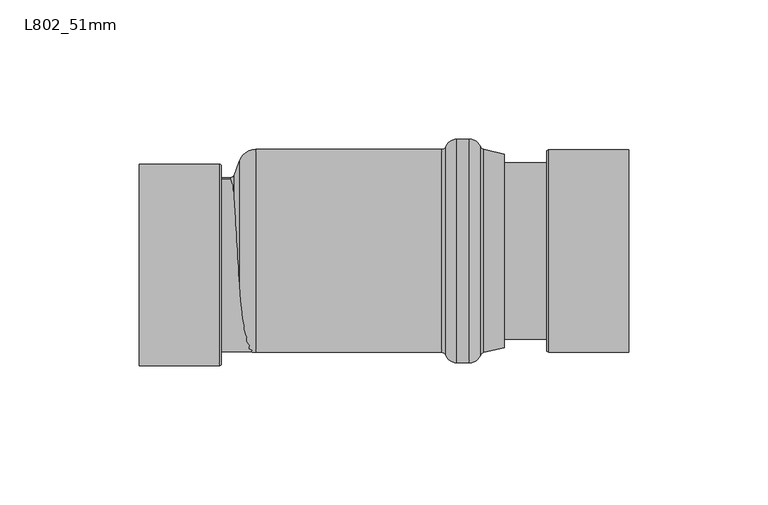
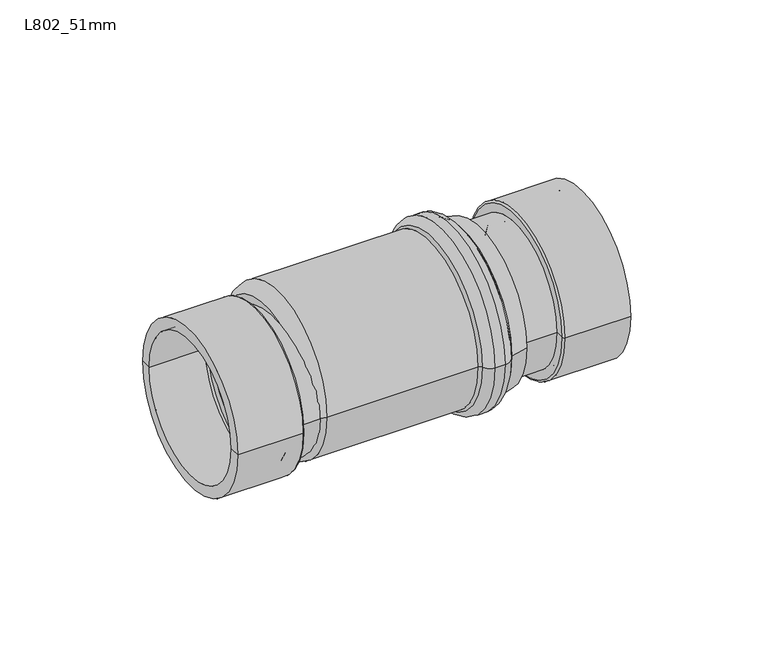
"""IFC4 building model written with IfcOpenShell, lengths in millimetres: pipe fitting geometry, Durapipe_PipeFitting_VulcatheneEnfusion_ThermalStressReliefUnit_L80 : L802_51mm."""

from ifc_helpers import new_model, si_unit, point, frame, origin, place, context, project, spatial, polyline, circle_curve, ellipse_curve, trimmed, source, transform, mapped, element, save
from ifc_brep_helpers import plane_surface, cylinder_surface, revolved_surface, advanced_brep


def l802_51mm_1347b56c(model_context):
    return source(origin(), model_context, "Body", "AdvancedBrep", [
        advanced_brep(
        [(-58.43, -26.2894623, 0.0), (-58.43, 26.2894623, 0.0), (-55.2611716, 26.2894623, 0.0), (-55.2611716, -26.2894623, 0.0), (-58.43, -21.6019623, 0.0), (-58.43, 21.6019623, 0.0), (-50.7877455, -21.6019623, 0.0), (-50.7877455, 21.6019623, 0.0), (-47.5124292, -30.60082, 0.0), (-47.5124292, 30.60082, 0.0), (-46.0223167, -31.7774623, 0.0), (-46.0223167, 31.7774623, 0.0), (-46.0223167, -36.4774623, 0.0), (-46.0223167, 36.4774623, 0.0), (-53.838544, -27.2855969, 0.0), (-53.838544, 27.2855969, 0.0), (-52.0527773, 32.1919505, 0.0), (-52.0527773, -32.1919505, 0.0)],
        [
            (0, 1, circle_curve(frame((-58.43, 0.0, 0.0), z_axis=(1.0, 0.0, 0.0), x_axis=(0.0, 1.0, 0.0)), 26.2894623)),
            (1, 2),
            (2, 3, circle_curve(frame((-55.2611716, 0.0, 0.0), z_axis=(-1.0, 0.0, 0.0), x_axis=(0.0, 1.0, 0.0)), 26.2894623)),
            (3, 0),
            (1, 0, circle_curve(frame((-58.43, 0.0, 0.0), z_axis=(1.0, 0.0, 0.0), x_axis=(0.0, 1.0, 0.0)), 26.2894623)),
            (3, 2, circle_curve(frame((-55.2611716, 0.0, 0.0), z_axis=(-1.0, 0.0, 0.0), x_axis=(0.0, 1.0, 0.0)), 26.2894623)),
            (4, 5, circle_curve(frame((-58.43, 0.0, 0.0), z_axis=(1.0, 0.0, 0.0), x_axis=(0.0, 1.0, 0.0)), 21.6019623)),
            (5, 1),
            (0, 4),
            (5, 4, circle_curve(frame((-58.43, 0.0, 0.0), z_axis=(1.0, 0.0, 0.0), x_axis=(0.0, 1.0, 0.0)), 21.6019623)),
            (6, 7, circle_curve(frame((-50.7877455, 0.0, 0.0), z_axis=(1.0, 0.0, 0.0), x_axis=(0.0, 1.0, 0.0)), 21.6019623)),
            (7, 5),
            (4, 6),
            (7, 6, circle_curve(frame((-50.7877455, 0.0, 0.0), z_axis=(1.0, 0.0, 0.0), x_axis=(0.0, 1.0, 0.0)), 21.6019623)),
            (8, 9, circle_curve(frame((-47.5124292, 0.0, 0.0), z_axis=(1.0, 0.0, 0.0), x_axis=(0.0, 1.0, 0.0)), 30.60082)),
            (9, 7),
            (6, 8),
            (9, 8, circle_curve(frame((-47.5124292, 0.0, 0.0), z_axis=(1.0, 0.0, 0.0), x_axis=(0.0, 1.0, 0.0)), 30.60082)),
            (10, 11, circle_curve(frame((-46.0223167, 0.0, 0.0), z_axis=(1.0, 0.0, 0.0), x_axis=(0.0, 1.0, 0.0)), 31.7774623)),
            (11, 9, circle_curve(frame((-45.8149562, 29.9829903, 0.0), z_axis=(0.0, 0.0, 1.0), x_axis=(1.0, 0.0, 0.0)), 1.8064131)),
            (8, 10, circle_curve(frame((-45.8149562, -29.9829903, 0.0), z_axis=(0.0, 0.0, 1.0), x_axis=(1.0, 0.0, 0.0)), 1.8064131)),
            (11, 10, circle_curve(frame((-46.0223167, 0.0, 0.0), z_axis=(1.0, 0.0, 0.0), x_axis=(0.0, 1.0, 0.0)), 31.7774623)),
            (12, 13, circle_curve(frame((-46.0223167, 0.0, 0.0), z_axis=(1.0, 0.0, 0.0), x_axis=(0.0, 1.0, 0.0)), 36.4774623)),
            (13, 11),
            (10, 12),
            (13, 12, circle_curve(frame((-46.0223167, 0.0, 0.0), z_axis=(1.0, 0.0, 0.0), x_axis=(0.0, 1.0, 0.0)), 36.4774623)),
            (14, 15, circle_curve(frame((-53.838544, 0.0, 0.0), z_axis=(1.0, 0.0, 0.0), x_axis=(0.0, 1.0, 0.0)), 27.2855969)),
            (15, 16),
            (16, 17, circle_curve(frame((-52.0527773, 0.0, 0.0), z_axis=(-1.0, 0.0, 0.0), x_axis=(0.0, 1.0, 0.0)), 32.1919505)),
            (17, 14),
            (15, 14, circle_curve(frame((-53.838544, 0.0, 0.0), z_axis=(1.0, 0.0, 0.0), x_axis=(0.0, 1.0, 0.0)), 27.2855969)),
            (17, 16, circle_curve(frame((-52.0527773, 0.0, 0.0), z_axis=(-1.0, 0.0, 0.0), x_axis=(0.0, 1.0, 0.0)), 32.1919505)),
            (2, 15, circle_curve(frame((-55.2611716, 27.803391, 0.0), z_axis=(0.0, 0.0, 1.0), x_axis=(1.0, 0.0, 0.0)), 1.5139287)),
            (14, 3, circle_curve(frame((-55.2611716, -27.803391, 0.0), z_axis=(0.0, 0.0, 1.0), x_axis=(1.0, 0.0, 0.0)), 1.5139287)),
            (16, 13, circle_curve(frame((-45.9315286, 29.9639982, 0.0), z_axis=(0.0, 0.0, -1.0), x_axis=(1.0, 0.0, 0.0)), 6.5140968)),
            (12, 17, circle_curve(frame((-45.9315286, -29.9639982, 0.0), z_axis=(0.0, 0.0, -1.0), x_axis=(1.0, 0.0, 0.0)), 6.5140968)),
        ],
        [
            cylinder_surface(frame((-71.2980853, 0.0, 0.0), z_axis=(-1.0, 0.0, 0.0), x_axis=(0.0, 1.0, 0.0)), 26.2894623),
            plane_surface(frame((-58.43, 0.0, 0.0), z_axis=(-1.0, 0.0, 0.0), x_axis=(0.0, 1.0, 0.0))),
            revolved_surface(polyline([(-58.43, 21.6019623, 0.0), (-50.7877455, 21.6019623, 0.0)]), (-71.2980853, 0.0, 0.0), (-1.0, 0.0, 0.0)),
            revolved_surface(polyline([(-50.7877455, 21.6019623, 0.0), (-47.5124292, 30.60082, 0.0)]), (-71.2980853, 0.0, 0.0), (-1.0, 0.0, 0.0)),
            revolved_surface(trimmed(ellipse_curve(frame((-45.8149562, 29.9829903, 0.0), z_axis=(0.0, 0.0, -1.0), x_axis=(1.0, 0.0, 0.0)), 1.8064131, 1.8064131), [point((-47.5124292, 30.60082, 0.0))], [point((-46.0223167, 31.7774623, 0.0))], True, "CARTESIAN"), (-71.2980853, 0.0, 0.0), (-1.0, 0.0, 0.0)),
            plane_surface(frame((-46.0223167, 0.0, 0.0), z_axis=(1.0, 0.0, 0.0), x_axis=(0.0, 1.0, 0.0))),
            revolved_surface(polyline([(-52.0527773, 32.1919505, 0.0), (-53.838544, 27.2855969, 0.0)]), (-71.2980853, 0.0, 0.0), (-1.0, 0.0, 0.0)),
            revolved_surface(trimmed(ellipse_curve(frame((-55.2611716, 27.803391, 0.0), z_axis=(0.0, 0.0, -1.0), x_axis=(1.0, 0.0, 0.0)), 1.5139287, 1.5139287), [point((-53.838544, 27.2855969, 0.0))], [point((-55.2611716, 26.2894623, 0.0))], True, "CARTESIAN"), (-71.2980853, 0.0, 0.0), (-1.0, 0.0, 0.0)),
            revolved_surface(trimmed(ellipse_curve(frame((-45.9315286, 29.9639982, 0.0), z_axis=(0.0, 0.0, 1.0), x_axis=(1.0, 0.0, 0.0)), 6.5140968, 6.5140968), [point((-46.0223167, 36.4774623, 0.0))], [point((-52.0527773, 32.1919505, 0.0))], True, "CARTESIAN"), (-71.2980853, 0.0, 0.0), (-1.0, 0.0, 0.0)),
        ],
        [
            (0, [[1, 2, 3, 4]]),
            (0, [[5, -4, 6, -2]]),
            (1, [[7, 8, -1, 9]]),
            (1, [[10, -9, -5, -8]]),
            (2, [[11, 12, -7, 13]]),
            (2, [[14, -13, -10, -12]]),
            (3, [[15, 16, -11, 17]]),
            (3, [[18, -17, -14, -16]]),
            (4, [[19, 20, -15, 21]]),
            (4, [[22, -21, -18, -20]]),
            (5, [[23, 24, -19, 25]]),
            (5, [[26, -25, -22, -24]]),
            (6, [[27, 28, 29, 30]]),
            (6, [[31, -30, 32, -28]]),
            (7, [[-3, 33, -27, 34]]),
            (7, [[-6, -34, -31, -33]]),
            (8, [[-29, 35, -23, 36]]),
            (8, [[-32, -36, -26, -35]]),
        ],
    ),
        advanced_brep(
        [(-46.0223167, 26.2894623, 0.0), (-46.0223167, 21.56975, 0.0), (-46.0223167, -31.56975, 0.0), (-46.0223167, -31.7774623, 0.0), (-46.0223167, -5.5776659, -31.2841294), (-46.0223167, -5.5776659, 31.2841294), (-62.35, 21.56975, 0.0), (-62.35, -31.56975, 0.0), (-62.35, 25.4894623, 0.0), (-62.35, -35.4894623, 0.0), (-63.15, 26.2894623, 0.0), (-63.15, -36.2894623, 0.0), (-88.0, 26.2894623, 0.0), (-88.0, -36.2894623, 0.0), (-88.0, 31.226, 0.0), (-88.0, -41.226, 0.0), (-59.23, 31.226, 0.0), (-59.23, -41.226, 0.0), (-58.43, 30.426, 0.0), (-58.43, -40.426, 0.0), (-58.43, 26.2894623, 0.0), (-58.43, -36.2894623, 0.0), (-46.0223167, -36.2894623, 0.0), (43.17, -34.7812098, 0.0), (43.17, 34.7812098, 0.0), (43.17, 31.7774623, 0.0), (43.17, -31.7774623, 0.0), (35.7647671, -36.4908425, 0.0), (35.7647671, 36.4908425, 0.0), (34.7114375, -37.4031565, 0.0), (34.7114375, 37.4031565, 0.0), (30.6588923, -40.1776408, 0.0), (30.6588923, 40.1776408, 0.0), (26.2331446, -40.1776408, 0.0), (26.2331446, 40.1776408, 0.0), (22.1898241, -37.4267269, 0.0), (22.1898241, 37.4267269, 0.0), (20.7945855, -36.4774623, 0.0), (20.7945855, 36.4774623, 0.0), (-46.0223167, -36.4774623, 0.0), (-46.0223167, 36.4774623, 0.0), (-46.0223167, 31.7774623, 0.0)],
        [
            (0, 1),
            (1, 2, circle_curve(frame((-46.0223167, -5.0, 0.0), z_axis=(-1.0, 0.0, 0.0), x_axis=(0.0, 1.0, 0.0)), 26.56975)),
            (2, 3),
            (3, 4, circle_curve(frame((-46.0223167, 0.0, 0.0), z_axis=(1.0, 0.0, 0.0), x_axis=(0.0, 1.0, 0.0)), 31.7774623)),
            (4, 0, circle_curve(frame((-46.0223167, -5.0, 0.0), z_axis=(1.0, 0.0, 0.0), x_axis=(0.0, 1.0, 0.0)), 31.2894623)),
            (0, 5, circle_curve(frame((-46.0223167, -5.0, 0.0), z_axis=(1.0, 0.0, 0.0), x_axis=(0.0, 1.0, 0.0)), 31.2894623)),
            (5, 3, circle_curve(frame((-46.0223167, 0.0, 0.0), z_axis=(1.0, 0.0, 0.0), x_axis=(0.0, 1.0, 0.0)), 31.7774623)),
            (2, 1, circle_curve(frame((-46.0223167, -5.0, 0.0), z_axis=(-1.0, 0.0, 0.0), x_axis=(0.0, 1.0, 0.0)), 26.56975)),
            (1, 6),
            (6, 7, circle_curve(frame((-62.35, -5.0, 0.0), z_axis=(-1.0, 0.0, 0.0), x_axis=(0.0, 1.0, 0.0)), 26.56975)),
            (7, 2),
            (7, 6, circle_curve(frame((-62.35, -5.0, 0.0), z_axis=(-1.0, 0.0, 0.0), x_axis=(0.0, 1.0, 0.0)), 26.56975)),
            (6, 8),
            (8, 9, circle_curve(frame((-62.35, -5.0, 0.0), z_axis=(-1.0, 0.0, 0.0), x_axis=(0.0, 1.0, 0.0)), 30.4894623)),
            (9, 7),
            (9, 8, circle_curve(frame((-62.35, -5.0, 0.0), z_axis=(-1.0, 0.0, 0.0), x_axis=(0.0, 1.0, 0.0)), 30.4894623)),
            (8, 10, circle_curve(frame((-63.15, 25.4894623, 0.0), z_axis=(0.0, 0.0, 1.0), x_axis=(-1.0, 0.0, 0.0)), 0.8)),
            (10, 11, circle_curve(frame((-63.15, -5.0, 0.0), z_axis=(-1.0, 0.0, 0.0), x_axis=(0.0, 1.0, 0.0)), 31.2894623)),
            (11, 9, circle_curve(frame((-63.15, -35.4894623, 0.0), z_axis=(0.0, 0.0, 1.0), x_axis=(-1.0, 0.0, 0.0)), 0.8)),
            (11, 10, circle_curve(frame((-63.15, -5.0, 0.0), z_axis=(-1.0, 0.0, 0.0), x_axis=(0.0, 1.0, 0.0)), 31.2894623)),
            (10, 12),
            (12, 13, circle_curve(frame((-88.0, -5.0, 0.0), z_axis=(-1.0, 0.0, 0.0), x_axis=(0.0, 1.0, 0.0)), 31.2894623)),
            (13, 11),
            (13, 12, circle_curve(frame((-88.0, -5.0, 0.0), z_axis=(-1.0, 0.0, 0.0), x_axis=(0.0, 1.0, 0.0)), 31.2894623)),
            (12, 14),
            (14, 15, circle_curve(frame((-88.0, -5.0, 0.0), z_axis=(-1.0, 0.0, 0.0), x_axis=(0.0, 1.0, 0.0)), 36.226)),
            (15, 13),
            (15, 14, circle_curve(frame((-88.0, -5.0, 0.0), z_axis=(-1.0, 0.0, 0.0), x_axis=(0.0, 1.0, 0.0)), 36.226)),
            (14, 16),
            (16, 17, circle_curve(frame((-59.23, -5.0, 0.0), z_axis=(-1.0, 0.0, 0.0), x_axis=(0.0, 1.0, 0.0)), 36.226)),
            (17, 15),
            (17, 16, circle_curve(frame((-59.23, -5.0, 0.0), z_axis=(-1.0, 0.0, 0.0), x_axis=(0.0, 1.0, 0.0)), 36.226)),
            (16, 18, circle_curve(frame((-59.23, 30.426, 0.0), z_axis=(0.0, 0.0, -1.0), x_axis=(-1.0, 0.0, 0.0)), 0.8)),
            (18, 19, circle_curve(frame((-58.43, -5.0, 0.0), z_axis=(-1.0, 0.0, 0.0), x_axis=(0.0, 1.0, 0.0)), 35.426)),
            (19, 17, circle_curve(frame((-59.23, -40.426, 0.0), z_axis=(0.0, 0.0, -1.0), x_axis=(-1.0, 0.0, 0.0)), 0.8)),
            (19, 18, circle_curve(frame((-58.43, -5.0, 0.0), z_axis=(-1.0, 0.0, 0.0), x_axis=(0.0, 1.0, 0.0)), 35.426)),
            (18, 20),
            (20, 21, circle_curve(frame((-58.43, -5.0, 0.0), z_axis=(-1.0, 0.0, 0.0), x_axis=(0.0, 1.0, 0.0)), 31.2894623)),
            (21, 19),
            (21, 20, circle_curve(frame((-58.43, -5.0, 0.0), z_axis=(-1.0, 0.0, 0.0), x_axis=(0.0, 1.0, 0.0)), 31.2894623)),
            (20, 0),
            (4, 22, circle_curve(frame((-46.0223167, -5.0, 0.0), z_axis=(-1.0, 0.0, 0.0), x_axis=(0.0, 1.0, 0.0)), 31.2894623)),
            (22, 21),
            (22, 5, circle_curve(frame((-46.0223167, -5.0, 0.0), z_axis=(-1.0, 0.0, 0.0), x_axis=(0.0, 1.0, 0.0)), 31.2894623)),
            (23, 24, circle_curve(frame((43.17, 0.0, 0.0), z_axis=(1.0, 0.0, 0.0), x_axis=(0.0, 1.0, 0.0)), 34.7812098)),
            (24, 25),
            (25, 26, circle_curve(frame((43.17, 0.0, 0.0), z_axis=(-1.0, 0.0, 0.0), x_axis=(0.0, 1.0, 0.0)), 31.7774623)),
            (26, 23),
            (24, 23, circle_curve(frame((43.17, 0.0, 0.0), z_axis=(1.0, 0.0, 0.0), x_axis=(0.0, 1.0, 0.0)), 34.7812098)),
            (26, 25, circle_curve(frame((43.17, 0.0, 0.0), z_axis=(-1.0, 0.0, 0.0), x_axis=(0.0, 1.0, 0.0)), 31.7774623)),
            (23, 27),
            (27, 28, circle_curve(frame((35.7647671, 0.0, 0.0), z_axis=(1.0, 0.0, 0.0), x_axis=(0.0, 1.0, 0.0)), 36.4908425)),
            (28, 24),
            (28, 27, circle_curve(frame((35.7647671, 0.0, 0.0), z_axis=(1.0, 0.0, 0.0), x_axis=(0.0, 1.0, 0.0)), 36.4908425)),
            (27, 29, circle_curve(frame((36.0997559, -37.9418382, 0.0), z_axis=(0.0, 0.0, 1.0), x_axis=(1.0, 0.0, 0.0)), 1.4891629)),
            (29, 30, circle_curve(frame((34.7114375, 0.0, 0.0), z_axis=(1.0, 0.0, 0.0), x_axis=(0.0, 1.0, 0.0)), 37.4031565)),
            (30, 28, circle_curve(frame((36.0997559, 37.9418382, 0.0), z_axis=(0.0, 0.0, 1.0), x_axis=(1.0, 0.0, 0.0)), 1.4891629)),
            (30, 29, circle_curve(frame((34.7114375, 0.0, 0.0), z_axis=(1.0, 0.0, 0.0), x_axis=(0.0, 1.0, 0.0)), 37.4031565)),
            (29, 31, circle_curve(frame((30.6588923, -35.8307274, 0.0), z_axis=(0.0, 0.0, -1.0), x_axis=(1.0, 0.0, 0.0)), 4.3469133)),
            (31, 32, circle_curve(frame((30.6588923, 0.0, 0.0), z_axis=(1.0, 0.0, 0.0), x_axis=(0.0, 1.0, 0.0)), 40.1776408)),
            (32, 30, circle_curve(frame((30.6588923, 35.8307274, 0.0), z_axis=(0.0, 0.0, -1.0), x_axis=(1.0, 0.0, 0.0)), 4.3469133)),
            (32, 31, circle_curve(frame((30.6588923, 0.0, 0.0), z_axis=(1.0, 0.0, 0.0), x_axis=(0.0, 1.0, 0.0)), 40.1776408)),
            (31, 33),
            (33, 34, circle_curve(frame((26.2331446, 0.0, 0.0), z_axis=(1.0, 0.0, 0.0), x_axis=(0.0, 1.0, 0.0)), 40.1776408)),
            (34, 32),
            (34, 33, circle_curve(frame((26.2331446, 0.0, 0.0), z_axis=(1.0, 0.0, 0.0), x_axis=(0.0, 1.0, 0.0)), 40.1776408)),
            (33, 35, circle_curve(frame((26.2331446, -35.8307274, 0.0), z_axis=(0.0, 0.0, -1.0), x_axis=(1.0, 0.0, 0.0)), 4.3469133)),
            (35, 36, circle_curve(frame((22.1898241, 0.0, 0.0), z_axis=(1.0, 0.0, 0.0), x_axis=(0.0, 1.0, 0.0)), 37.4267269)),
            (36, 34, circle_curve(frame((26.2331446, 35.8307274, 0.0), z_axis=(0.0, 0.0, -1.0), x_axis=(1.0, 0.0, 0.0)), 4.3469133)),
            (36, 35, circle_curve(frame((22.1898241, 0.0, 0.0), z_axis=(1.0, 0.0, 0.0), x_axis=(0.0, 1.0, 0.0)), 37.4267269)),
            (35, 37, circle_curve(frame((20.7945855, -37.9774623, 0.0), z_axis=(0.0, 0.0, 1.0), x_axis=(1.0, 0.0, 0.0)), 1.5)),
            (37, 38, circle_curve(frame((20.7945855, 0.0, 0.0), z_axis=(1.0, 0.0, 0.0), x_axis=(0.0, 1.0, 0.0)), 36.4774623)),
            (38, 36, circle_curve(frame((20.7945855, 37.9774623, 0.0), z_axis=(0.0, 0.0, 1.0), x_axis=(1.0, 0.0, 0.0)), 1.5)),
            (38, 37, circle_curve(frame((20.7945855, 0.0, 0.0), z_axis=(1.0, 0.0, 0.0), x_axis=(0.0, 1.0, 0.0)), 36.4774623)),
            (37, 39),
            (39, 40, circle_curve(frame((-46.0223167, 0.0, 0.0), z_axis=(1.0, 0.0, 0.0), x_axis=(0.0, 1.0, 0.0)), 36.4774623)),
            (40, 38),
            (40, 39, circle_curve(frame((-46.0223167, 0.0, 0.0), z_axis=(1.0, 0.0, 0.0), x_axis=(0.0, 1.0, 0.0)), 36.4774623)),
            (39, 22),
            (4, 41, circle_curve(frame((-46.0223167, 0.0, 0.0), z_axis=(1.0, 0.0, 0.0), x_axis=(0.0, 1.0, 0.0)), 31.7774623)),
            (41, 40),
            (41, 5, circle_curve(frame((-46.0223167, 0.0, 0.0), z_axis=(1.0, 0.0, 0.0), x_axis=(0.0, 1.0, 0.0)), 31.7774623)),
            (25, 41),
            (3, 26),
        ],
        [
            plane_surface(frame((-46.0223167, -5.0, 0.0), z_axis=(1.0, 0.0, 0.0), x_axis=(0.0, 1.0, 0.0))),
            revolved_surface(polyline([(-62.35, 21.56975, 0.0), (-46.022316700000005, 21.56975, 0.0)]), (-113.0, -5.0, 0.0), (-1.0, 0.0, 0.0)),
            plane_surface(frame((-62.35, -5.0, 0.0), z_axis=(-1.0, 0.0, 0.0), x_axis=(0.0, 1.0, 0.0))),
            revolved_surface(trimmed(ellipse_curve(frame((-63.15, 25.4894623, 0.0), z_axis=(0.0, 0.0, -1.0), x_axis=(-1.0, 0.0, 0.0)), 0.8, 0.8), [point((-63.15, 26.2894623, 0.0))], [point((-62.35, 25.4894623, 0.0))], True, "CARTESIAN"), (-113.0, -5.0, 0.0), (-1.0, 0.0, 0.0)),
            revolved_surface(polyline([(-88.0, 26.2894623, 0.0), (-63.15, 26.2894623, 0.0)]), (-113.0, -5.0, 0.0), (-1.0, 0.0, 0.0)),
            plane_surface(frame((-88.0, -5.0, 0.0), z_axis=(-1.0, 0.0, 0.0), x_axis=(0.0, 1.0, 0.0))),
            cylinder_surface(frame((-113.0, -5.0, 0.0), z_axis=(-1.0, 0.0, 0.0), x_axis=(0.0, 1.0, 0.0)), 36.226),
            revolved_surface(trimmed(ellipse_curve(frame((-59.23, 30.426, 0.0), z_axis=(0.0, 0.0, 1.0), x_axis=(-1.0, 0.0, 0.0)), 0.8, 0.8), [point((-58.43, 30.426, 0.0))], [point((-59.23, 31.226, 0.0))], True, "CARTESIAN"), (-113.0, -5.0, 0.0), (-1.0, 0.0, 0.0)),
            plane_surface(frame((-58.43, -5.0, 0.0), z_axis=(1.0, 0.0, 0.0), x_axis=(0.0, 1.0, 0.0))),
            cylinder_surface(frame((-113.0, -5.0, 0.0), z_axis=(-1.0, 0.0, 0.0), x_axis=(0.0, 1.0, 0.0)), 31.2894623),
            plane_surface(frame((43.17, 0.0, 0.0), z_axis=(1.0, 0.0, 0.0), x_axis=(0.0, 1.0, 0.0))),
            revolved_surface(polyline([(43.17, 34.7812098, 0.0), (35.7647671, 36.4908425, 0.0)]), (108.17, 0.0, 0.0), (-1.0, 0.0, 0.0)),
            revolved_surface(trimmed(ellipse_curve(frame((36.0997559, 37.9418382, 0.0), z_axis=(0.0, 0.0, -1.0), x_axis=(1.0, 0.0, 0.0)), 1.4891629, 1.4891629), [point((35.7647671, 36.4908425, 0.0))], [point((34.7114375, 37.4031565, 0.0))], True, "CARTESIAN"), (108.17, 0.0, 0.0), (-1.0, 0.0, 0.0)),
            revolved_surface(trimmed(ellipse_curve(frame((30.6588923, 35.8307274, 0.0), z_axis=(0.0, 0.0, 1.0), x_axis=(1.0, 0.0, 0.0)), 4.3469133, 4.3469133), [point((34.7114375, 37.4031565, 0.0))], [point((30.6588923, 40.1776408, 0.0))], True, "CARTESIAN"), (108.17, 0.0, 0.0), (-1.0, 0.0, 0.0)),
            cylinder_surface(frame((108.17, 0.0, 0.0), z_axis=(-1.0, 0.0, 0.0), x_axis=(0.0, 1.0, 0.0)), 40.1776408),
            revolved_surface(trimmed(ellipse_curve(frame((26.2331446, 35.8307274, 0.0), z_axis=(0.0, 0.0, 1.0), x_axis=(1.0, 0.0, 0.0)), 4.3469133, 4.3469133), [point((26.2331446, 40.1776408, 0.0))], [point((22.1898241, 37.4267269, 0.0))], True, "CARTESIAN"), (108.17, 0.0, 0.0), (-1.0, 0.0, 0.0)),
            revolved_surface(trimmed(ellipse_curve(frame((20.7945855, 37.9774623, 0.0), z_axis=(0.0, 0.0, -1.0), x_axis=(1.0, 0.0, 0.0)), 1.5, 1.5), [point((22.1898241, 37.4267269, 0.0))], [point((20.7945855, 36.4774623, 0.0))], True, "CARTESIAN"), (108.17, 0.0, 0.0), (-1.0, 0.0, 0.0)),
            cylinder_surface(frame((108.17, 0.0, 0.0), z_axis=(-1.0, 0.0, 0.0), x_axis=(0.0, 1.0, 0.0)), 36.4774623),
            plane_surface(frame((-46.0223167, 0.0, 0.0), z_axis=(-1.0, 0.0, 0.0), x_axis=(0.0, 1.0, 0.0))),
            revolved_surface(polyline([(-46.02231669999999, 31.7774623, 0.0), (43.17, 31.7774623, 0.0)]), (108.17, 0.0, 0.0), (-1.0, 0.0, 0.0)),
        ],
        [
            (0, [[1, 2, 3, 4, 5]]),
            (0, [[-1, 6, 7, -3, 8]]),
            (1, [[-2, 9, 10, 11]]),
            (1, [[-8, -11, 12, -9]]),
            (2, [[-10, 13, 14, 15]]),
            (2, [[-12, -15, 16, -13]]),
            (3, [[-14, 17, 18, 19]]),
            (3, [[-16, -19, 20, -17]]),
            (4, [[-18, 21, 22, 23]]),
            (4, [[-20, -23, 24, -21]]),
            (5, [[-22, 25, 26, 27]]),
            (5, [[-24, -27, 28, -25]]),
            (6, [[-26, 29, 30, 31]]),
            (6, [[-28, -31, 32, -29]]),
            (7, [[-30, 33, 34, 35]]),
            (7, [[-32, -35, 36, -33]]),
            (8, [[-34, 37, 38, 39]]),
            (8, [[-36, -39, 40, -37]]),
            (9, [[-38, 41, -5, 42, 43]]),
            (9, [[-40, -43, 44, -6, -41]]),
            (10, [[45, 46, 47, 48]]),
            (10, [[-46, 49, -48, 50]]),
            (11, [[-45, 51, 52, 53]]),
            (11, [[-49, -53, 54, -51]]),
            (12, [[-52, 55, 56, 57]]),
            (12, [[-54, -57, 58, -55]]),
            (13, [[-56, 59, 60, 61]]),
            (13, [[-58, -61, 62, -59]]),
            (14, [[-60, 63, 64, 65]]),
            (14, [[-62, -65, 66, -63]]),
            (15, [[-64, 67, 68, 69]]),
            (15, [[-66, -69, 70, -67]]),
            (16, [[-68, 71, 72, 73]]),
            (16, [[-70, -73, 74, -71]]),
            (17, [[-72, 75, 76, 77]]),
            (17, [[-74, -77, 78, -75]]),
            (18, [[-76, 79, -42, 80, 81]]),
            (18, [[-78, -81, 82, -44, -79]]),
            (19, [[-47, 83, -80, -4, 84]]),
            (19, [[-50, -84, -7, -82, -83]]),
        ],
    ),
        advanced_brep(
        [(-30.97, -26.66375, 0.0), (-30.97, 26.66375, 0.0), (-30.97, 30.36375, 0.0), (-30.97, -30.36375, 0.0), (62.35, -26.66375, 0.0), (62.35, 26.66375, 0.0), (62.35, -30.52, 0.0), (62.35, 30.52, 0.0), (63.15, -31.32, 0.0), (63.15, 31.32, 0.0), (88.0, -31.32, 0.0), (88.0, 31.32, 0.0), (88.0, -36.32, 0.0), (88.0, 36.32, 0.0), (59.23, -36.32, 0.0), (59.23, 36.32, 0.0), (58.43, -35.52, 0.0), (58.43, 35.52, 0.0), (58.43, -31.66375, 0.0), (58.43, 31.66375, 0.0), (-29.67, -31.66375, 0.0), (-29.67, 31.66375, 0.0)],
        [
            (0, 1, circle_curve(frame((-30.97, 0.0, 0.0), z_axis=(1.0, 0.0, 0.0), x_axis=(0.0, 1.0, 0.0)), 26.66375)),
            (1, 2),
            (2, 3, circle_curve(frame((-30.97, 0.0, 0.0), z_axis=(-1.0, 0.0, 0.0), x_axis=(0.0, 1.0, 0.0)), 30.36375)),
            (3, 0),
            (1, 0, circle_curve(frame((-30.97, 0.0, 0.0), z_axis=(1.0, 0.0, 0.0), x_axis=(0.0, 1.0, 0.0)), 26.66375)),
            (3, 2, circle_curve(frame((-30.97, 0.0, 0.0), z_axis=(-1.0, 0.0, 0.0), x_axis=(0.0, 1.0, 0.0)), 30.36375)),
            (4, 5, circle_curve(frame((62.35, 0.0, 0.0), z_axis=(1.0, 0.0, 0.0), x_axis=(0.0, 1.0, 0.0)), 26.66375)),
            (5, 1),
            (0, 4),
            (5, 4, circle_curve(frame((62.35, 0.0, 0.0), z_axis=(1.0, 0.0, 0.0), x_axis=(0.0, 1.0, 0.0)), 26.66375)),
            (6, 7, circle_curve(frame((62.35, 0.0, 0.0), z_axis=(1.0, 0.0, 0.0), x_axis=(0.0, 1.0, 0.0)), 30.52)),
            (7, 5),
            (4, 6),
            (7, 6, circle_curve(frame((62.35, 0.0, 0.0), z_axis=(1.0, 0.0, 0.0), x_axis=(0.0, 1.0, 0.0)), 30.52)),
            (8, 9, circle_curve(frame((63.15, 0.0, 0.0), z_axis=(1.0, 0.0, 0.0), x_axis=(0.0, 1.0, 0.0)), 31.32)),
            (9, 7, circle_curve(frame((63.15, 30.52, 0.0), z_axis=(0.0, 0.0, 1.0), x_axis=(1.0, 0.0, 0.0)), 0.8)),
            (6, 8, circle_curve(frame((63.15, -30.52, 0.0), z_axis=(0.0, 0.0, 1.0), x_axis=(1.0, 0.0, 0.0)), 0.8)),
            (9, 8, circle_curve(frame((63.15, 0.0, 0.0), z_axis=(1.0, 0.0, 0.0), x_axis=(0.0, 1.0, 0.0)), 31.32)),
            (10, 11, circle_curve(frame((88.0, 0.0, 0.0), z_axis=(1.0, 0.0, 0.0), x_axis=(0.0, 1.0, 0.0)), 31.32)),
            (11, 9),
            (8, 10),
            (11, 10, circle_curve(frame((88.0, 0.0, 0.0), z_axis=(1.0, 0.0, 0.0), x_axis=(0.0, 1.0, 0.0)), 31.32)),
            (12, 13, circle_curve(frame((88.0, 0.0, 0.0), z_axis=(1.0, 0.0, 0.0), x_axis=(0.0, 1.0, 0.0)), 36.32)),
            (13, 11),
            (10, 12),
            (13, 12, circle_curve(frame((88.0, 0.0, 0.0), z_axis=(1.0, 0.0, 0.0), x_axis=(0.0, 1.0, 0.0)), 36.32)),
            (14, 15, circle_curve(frame((59.23, 0.0, 0.0), z_axis=(1.0, 0.0, 0.0), x_axis=(0.0, 1.0, 0.0)), 36.32)),
            (15, 13),
            (12, 14),
            (15, 14, circle_curve(frame((59.23, 0.0, 0.0), z_axis=(1.0, 0.0, 0.0), x_axis=(0.0, 1.0, 0.0)), 36.32)),
            (16, 17, circle_curve(frame((58.43, 0.0, 0.0), z_axis=(1.0, 0.0, 0.0), x_axis=(0.0, 1.0, 0.0)), 35.52)),
            (17, 15, circle_curve(frame((59.23, 35.52, 0.0), z_axis=(0.0, 0.0, -1.0), x_axis=(1.0, 0.0, 0.0)), 0.8)),
            (14, 16, circle_curve(frame((59.23, -35.52, 0.0), z_axis=(0.0, 0.0, -1.0), x_axis=(1.0, 0.0, 0.0)), 0.8)),
            (17, 16, circle_curve(frame((58.43, 0.0, 0.0), z_axis=(1.0, 0.0, 0.0), x_axis=(0.0, 1.0, 0.0)), 35.52)),
            (18, 19, circle_curve(frame((58.43, 0.0, 0.0), z_axis=(1.0, 0.0, 0.0), x_axis=(0.0, 1.0, 0.0)), 31.66375)),
            (19, 17),
            (16, 18),
            (19, 18, circle_curve(frame((58.43, 0.0, 0.0), z_axis=(1.0, 0.0, 0.0), x_axis=(0.0, 1.0, 0.0)), 31.66375)),
            (20, 21, circle_curve(frame((-29.67, 0.0, 0.0), z_axis=(1.0, 0.0, 0.0), x_axis=(0.0, 1.0, 0.0)), 31.66375)),
            (21, 19),
            (18, 20),
            (21, 20, circle_curve(frame((-29.67, 0.0, 0.0), z_axis=(1.0, 0.0, 0.0), x_axis=(0.0, 1.0, 0.0)), 31.66375)),
            (2, 21, circle_curve(frame((-29.67, 30.36375, 0.0), z_axis=(0.0, 0.0, -1.0), x_axis=(1.0, 0.0, 0.0)), 1.3)),
            (20, 3, circle_curve(frame((-29.67, -30.36375, 0.0), z_axis=(0.0, 0.0, -1.0), x_axis=(1.0, 0.0, 0.0)), 1.3)),
        ],
        [
            plane_surface(frame((-30.97, 0.0, 0.0), z_axis=(-1.0, 0.0, 0.0), x_axis=(0.0, 1.0, 0.0))),
            revolved_surface(polyline([(-30.97, 26.66375, 0.0), (62.35, 26.66375, 0.0)]), (113.0, 0.0, 0.0), (-1.0, 0.0, 0.0)),
            plane_surface(frame((62.35, 0.0, 0.0), z_axis=(1.0, 0.0, 0.0), x_axis=(0.0, 1.0, 0.0))),
            revolved_surface(trimmed(ellipse_curve(frame((63.15, 30.52, 0.0), z_axis=(0.0, 0.0, -1.0), x_axis=(1.0, 0.0, 0.0)), 0.8, 0.8), [point((62.35, 30.52, 0.0))], [point((63.15, 31.32, 0.0))], True, "CARTESIAN"), (113.0, 0.0, 0.0), (-1.0, 0.0, 0.0)),
            revolved_surface(polyline([(63.15, 31.32, 0.0), (88.0, 31.32, 0.0)]), (113.0, 0.0, 0.0), (-1.0, 0.0, 0.0)),
            plane_surface(frame((88.0, 0.0, 0.0), z_axis=(1.0, 0.0, 0.0), x_axis=(0.0, 1.0, 0.0))),
            cylinder_surface(frame((113.0, 0.0, 0.0), z_axis=(-1.0, 0.0, 0.0), x_axis=(0.0, 1.0, 0.0)), 36.32),
            revolved_surface(trimmed(ellipse_curve(frame((59.23, 35.52, 0.0), z_axis=(0.0, 0.0, 1.0), x_axis=(1.0, 0.0, 0.0)), 0.8, 0.8), [point((59.23, 36.32, 0.0))], [point((58.43, 35.52, 0.0))], True, "CARTESIAN"), (113.0, 0.0, 0.0), (-1.0, 0.0, 0.0)),
            plane_surface(frame((58.43, 0.0, 0.0), z_axis=(-1.0, 0.0, 0.0), x_axis=(0.0, 1.0, 0.0))),
            cylinder_surface(frame((113.0, 0.0, 0.0), z_axis=(-1.0, 0.0, 0.0), x_axis=(0.0, 1.0, 0.0)), 31.66375),
            revolved_surface(trimmed(ellipse_curve(frame((-29.67, 30.36375, 0.0), z_axis=(0.0, 0.0, 1.0), x_axis=(1.0, 0.0, 0.0)), 1.3, 1.3), [point((-29.67, 31.66375, 0.0))], [point((-30.97, 30.36375, 0.0))], True, "CARTESIAN"), (113.0, 0.0, 0.0), (-1.0, 0.0, 0.0)),
        ],
        [
            (0, [[1, 2, 3, 4]]),
            (0, [[5, -4, 6, -2]]),
            (1, [[7, 8, -1, 9]]),
            (1, [[10, -9, -5, -8]]),
            (2, [[11, 12, -7, 13]]),
            (2, [[14, -13, -10, -12]]),
            (3, [[15, 16, -11, 17]]),
            (3, [[18, -17, -14, -16]]),
            (4, [[19, 20, -15, 21]]),
            (4, [[22, -21, -18, -20]]),
            (5, [[23, 24, -19, 25]]),
            (5, [[26, -25, -22, -24]]),
            (6, [[27, 28, -23, 29]]),
            (6, [[30, -29, -26, -28]]),
            (7, [[31, 32, -27, 33]]),
            (7, [[34, -33, -30, -32]]),
            (8, [[35, 36, -31, 37]]),
            (8, [[38, -37, -34, -36]]),
            (9, [[39, 40, -35, 41]]),
            (9, [[42, -41, -38, -40]]),
            (10, [[-3, 43, -39, 44]]),
            (10, [[-6, -44, -42, -43]]),
        ],
    ),
    ])


if __name__ == "__main__":
    model = new_model("IFC4")
    model_context = context("Model", 3, world=origin())
    ifc_project = project(units=[si_unit("LENGTHUNIT", "METRE", prefix="MILLI")], contexts=[model_context])
    site = spatial("IfcSite", under=ifc_project)
    building = spatial("IfcBuilding", under=site)
    placement = place(None, origin())
    l802_51mm_shape = l802_51mm_1347b56c(model_context)
    element("IfcPipeFitting", 1, ObjectType="Durapipe_PipeFitting_VulcatheneEnfusion_ThermalStressReliefUnit_L80 : L802_51mm", at=placement, inside=building, context=model_context, shape_type="MappedRepresentation", body=[
        mapped(l802_51mm_shape, transform((0.0, 0.0, 0.0), x_axis=(1.0, 0.0, 0.0), y_axis=(0.0, 1.0, 0.0), z_axis=(0.0, 0.0, 1.0))),
    ])
    save(model, "model.ifc")
